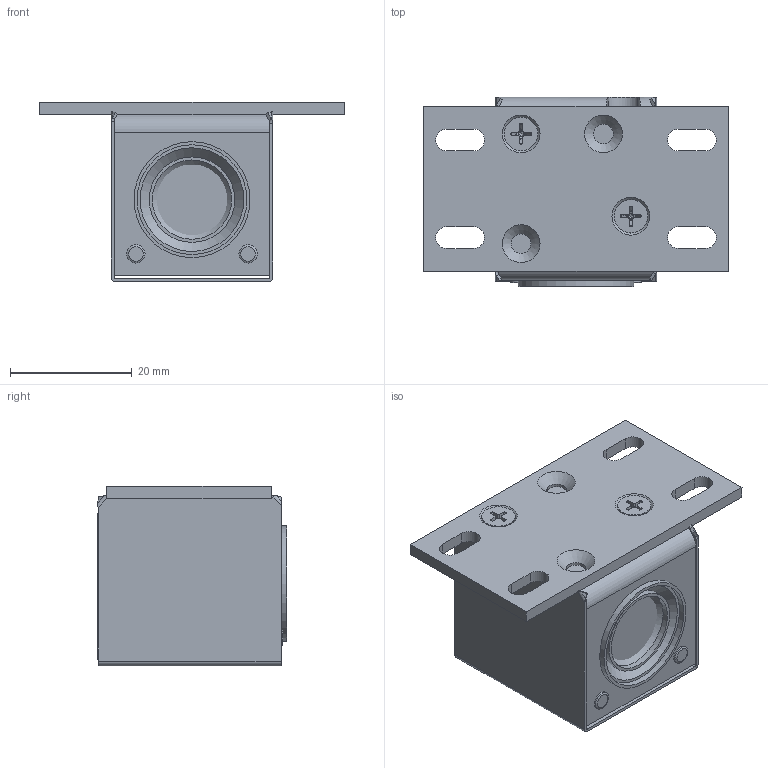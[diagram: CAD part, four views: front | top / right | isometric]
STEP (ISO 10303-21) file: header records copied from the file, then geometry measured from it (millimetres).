
FILE_DESCRIPTION (( 'STEP AP214' ), '1' );
FILE_NAME ('SH2LNZ_v2.5.STEP', '2017-03-07T06:59:40', ( '1' ), ( 'MICROSOFT' ), 'SwSTEP 2.0', 'SolidWorks 2012', '' );
FILE_SCHEMA (( 'AUTOMOTIVE_DESIGN' ));
Length unit declared in the file: millimetre
Products named in the file (1): SH2LNZ_v2.5
Bounding box: 50 x 31 x 29.5 mm (x, y, z)
Volume: 14135.5 mm3; surface area: 19454.7 mm2
Topology: 6 solids, 6 shells, 304 faces, 782 edges, 500 vertices
Faces by surface type: plane 128, cylinder 84, cone 66, bspline 26
Full cylindrical faces by diameter (mm): 2 x1, 2.013 x1, 2.459 x4, 2.693 x4, 3 x6, 3.2 x4, 3.3 x2, 4.2 x4, 5.5 x4, 6 x2, 8 x2, 8.1 x1, 9.2 x1, 9.4 x1, 13 x1, 13.3 x1, 13.4 x1, 14 x1, 15 x1, 16.8 x1, 16.9 x1, 17 x1, 17.8 x1, 17.9 x2, 18 x2, 19 x1, 22 x1
Entity records: 14025 total; most frequent: CARTESIAN_POINT 4082, ORIENTED_EDGE 1306, DIRECTION 1249, EDGE_CURVE 653, AXIS2_PLACEMENT_3D 492, VERTEX_POINT 453, EDGE_LOOP 436, FACE_OUTER_BOUND 354
